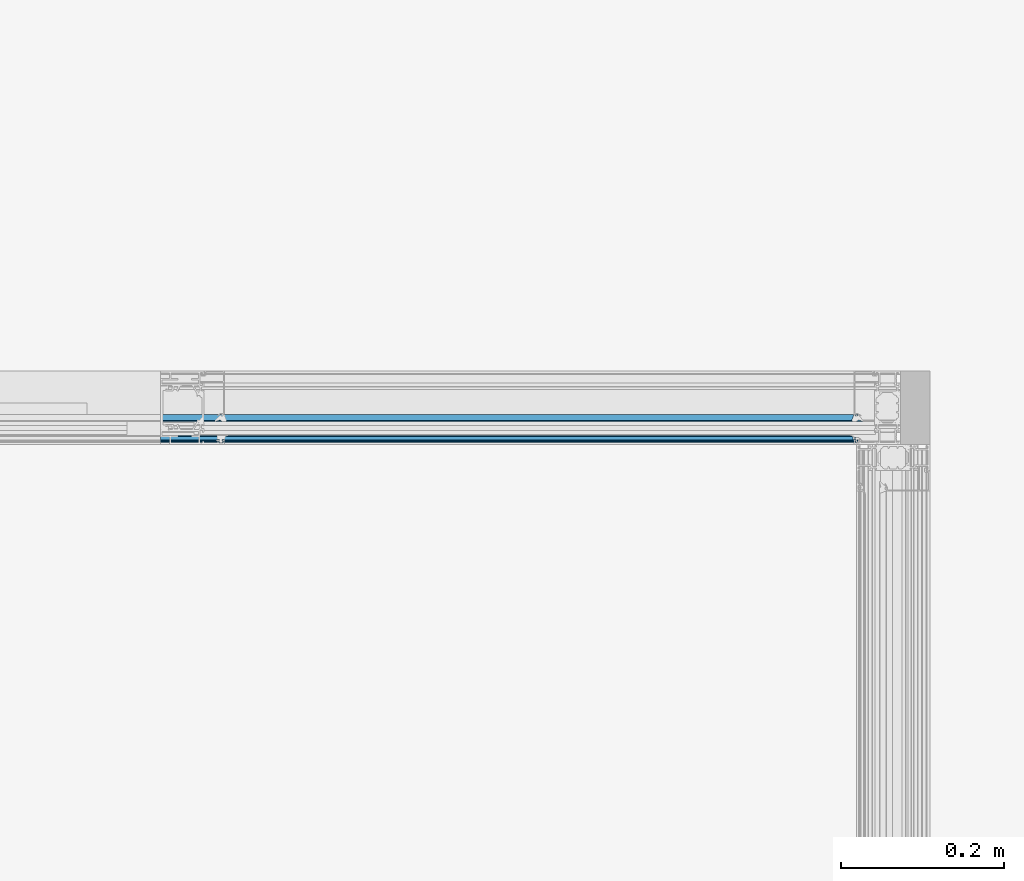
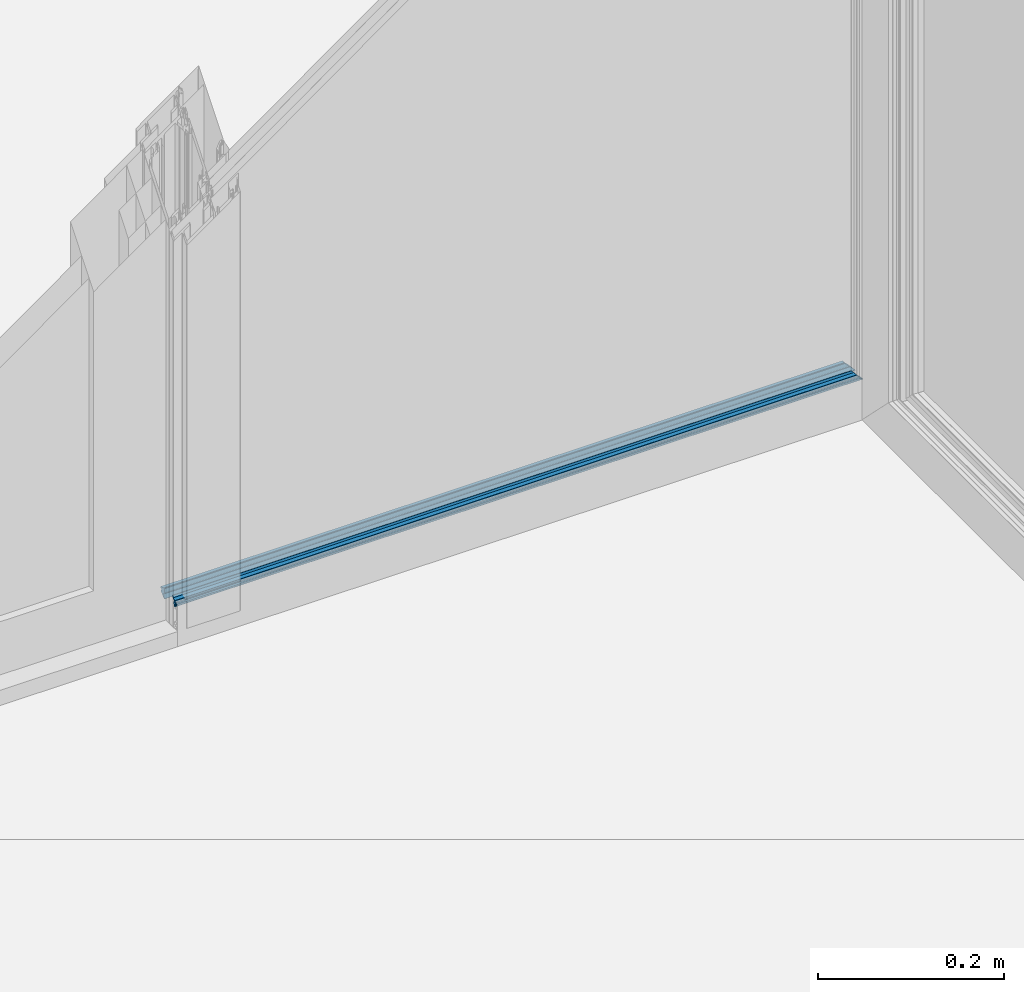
# One storey, part 36 of 69: 1 building element part, 2 elements without a shape of their own.
"""IFC2X3 building model written with IfcOpenShell, lengths in millimetres."""

from ifc_helpers import new_model, entity, si_unit, converted_unit, derived_unit, money_unit, direction, frame, origin_with_axes, place, context, subcontext, project, spatial, faceted_brep, material, type_object, element, aggregate, save


model = new_model("IFC2X3")

# Units and contexts
model_context = context("Model", 3, precision=0.01, world=origin_with_axes(), true_north=direction((0.0, 1.0)))
body_context = subcontext(model_context, "Body", "Model", "MODEL_VIEW")
ifc_project = project(units=[si_unit("LENGTHUNIT", "METRE", prefix="MILLI"), si_unit("AREAUNIT", "SQUARE_METRE"), si_unit("VOLUMEUNIT", "CUBIC_METRE"), converted_unit("PLANEANGLEUNIT", "DEGREE", entity("IfcPlaneAngleMeasure", 0.0174532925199), si_unit("PLANEANGLEUNIT", "RADIAN"), dimensions=[0, 0, 0, 0, 0, 0, 0]), si_unit("SOLIDANGLEUNIT", "STERADIAN"), money_unit("EUR"), converted_unit("TIMEUNIT", "Year", entity("IfcTimeMeasure", 31556926.0), si_unit("TIMEUNIT", "SECOND"), dimensions=[0, 0, 1, 0, 0, 0, 0]), si_unit("MASSUNIT", "GRAM", prefix="KILO"), si_unit("THERMODYNAMICTEMPERATUREUNIT", "DEGREE_CELSIUS"), si_unit("LUMINOUSINTENSITYUNIT", "LUMEN"), si_unit("ENERGYUNIT", "JOULE", prefix="MEGA"), derived_unit("THERMALCONDUCTANCEUNIT", [(si_unit("POWERUNIT", "WATT"), 1), (si_unit("LENGTHUNIT", "METRE"), -1), (si_unit("THERMODYNAMICTEMPERATUREUNIT", "KELVIN"), -1)]), derived_unit("SPECIFICHEATCAPACITYUNIT", [(si_unit("ENERGYUNIT", "JOULE"), 1), (si_unit("MASSUNIT", "GRAM", prefix="KILO"), -1), (si_unit("THERMODYNAMICTEMPERATUREUNIT", "KELVIN"), -1)]), derived_unit("MASSDENSITYUNIT", [(si_unit("MASSUNIT", "GRAM", prefix="KILO"), 1), (si_unit("VOLUMEUNIT", "CUBIC_METRE"), -1)])], contexts=[model_context])

# Site, building, storey
site_placement = place(None, origin_with_axes())
site = spatial("IfcSite", under=ifc_project, at=site_placement, Name="Puškini 31, Narva", CompositionType="ELEMENT")
building_placement = place(site_placement, origin_with_axes())
building = spatial("IfcBuilding", under=site, at=building_placement, Name="Narva Riigigümnaasium", CompositionType="ELEMENT")
storey_placement = place(building_placement, origin_with_axes())
storey = spatial("IfcBuildingStorey", under=building, at=storey_placement, Name="1.korrus 0.00", CompositionType="ELEMENT", Elevation=0.0)

# Curtain wall, member, building element part
curtain_wall_type = type_object("IfcCurtainWallType", Name="Curtain Wall Type", PredefinedType="NOTDEFINED")
curtain_wall_placement = place(storey_placement, frame((18229.9603698, 152620.000001, -0.397158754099), z_axis=(0.0, 0.0, 1.0), x_axis=(1.0, 0.0, 0.0)))
curtain_wall = element("IfcCurtainWall", 1, at=curtain_wall_placement, inside=storey, type_object=curtain_wall_type, Name="G-KLF-01-1")
member_type = type_object("IfcMemberType", Name="61 x 45", PredefinedType="MULLION")
member_placement = place(curtain_wall_placement, frame((4064.40686752, 0.0, 0.0), z_axis=(-1.0, 0.0, 0.0), x_axis=(0.0, 0.0, 1.0)))
member = element("IfcMember", 2, at=member_placement, type_object=member_type, Name="G-SKLF-01-raam", ObjectType="MULLION")
aggregate(curtain_wall, [member])
ifc_material = material(Name="Membraan - Veekindel")
building_element_part_placement = place(member_placement, origin_with_axes())
building_element_part = element("IfcBuildingElementPart", 3, at=building_element_part_placement, material=ifc_material, Name="Membraan - Veekindel", context=body_context, shape_type="Brep", body=[
    faceted_brep([(59.5800222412, -34.73794757, 59.5800222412), (61.0413385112, -34.3890442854, 61.0413385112), (61.0413385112, -34.3890442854, 905.68356342), (59.5800222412, -34.73794757, 905.68356342), (58.4755028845, -35.3628499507, 58.4755028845), (57.9693613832, -36.5265882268, 57.9693613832), (57.7000324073, -39.5999584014, 57.7000324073), (57.6464370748, -39.7999717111, 57.6464370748), (57.5000161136, -39.9463912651, 57.5000161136), (57.3000022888, -39.9999846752, 57.3000022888), (57.3000022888, -39.1999494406, 57.3000022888), (55.3000210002, -39.1999606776, 55.3000210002), (55.2330337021, -38.9499606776, 55.2330337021), (55.0500210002, -38.7669479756, 55.0500210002), (54.8000210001, -38.6999606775, 54.8000210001), (54.5500210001, -38.7669479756, 54.5500210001), (54.3670082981, -38.9499606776, 54.3670082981), (54.300021, -39.1999606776, 54.300021), (54.300021, -40.4999366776, 54.300021), (54.3402133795, -40.6499366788, 54.3402133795), (54.4500210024, -40.7597443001, 54.4500210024), (54.6000210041, -40.7999366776, 54.6000210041), (54.7000173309, -40.7999366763, 54.7000173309), (54.866675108, -40.850483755, 54.866675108), (54.9771753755, -40.9850924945, 54.9771753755), (54.9942836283, -41.1584047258, 54.9942836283), (54.9122350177, -41.3120206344, 54.9122350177), (53.8716106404, -42.3533776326, 53.8716106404), (53.7093558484, -42.4618547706, 53.7093558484), (53.517932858, -42.4999486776, 53.517932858), (51.8818844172, -42.4999486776, 51.8818844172), (51.6904310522, -42.4618421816, 51.6904310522), (51.5281601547, -42.3533311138, 51.5281601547), (50.4878083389, -41.3119729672, 50.4878083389), (50.4057850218, -41.1583618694, 50.4057850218), (50.4229059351, -40.9850671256, 50.4229059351), (50.5334025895, -40.8504763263, 50.5334025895), (50.7000457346, -40.7999366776, 50.7000457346), (50.80004, -40.7999366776, 50.80004), (50.95004, -40.7597442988, 50.95004), (51.0598476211, -40.6499366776, 51.0598476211), (51.10004, -40.4999366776, 51.10004), (51.10004, -39.1999550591, 51.10004), (51.0330541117, -38.9499546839, 51.0330541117), (50.8500424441, -38.7669409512, 50.8500424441), (50.6000428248, -38.699952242, 50.6000428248), (50.3500424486, -38.7669381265, 50.3500424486), (50.1670287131, -38.9499497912, 50.1670287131), (50.10004, -39.1999494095, 50.10004), (48.7206527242, -39.1999494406, 48.7206527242), (48.7206527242, -38.0023809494, 48.7206527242), (48.7876400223, -37.7523809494, 48.7876400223), (48.9706527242, -37.5693682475, 48.9706527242), (49.2206527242, -37.5023809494, 49.2206527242), (50.3319753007, -37.5023809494, 50.3319753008), (50.5819753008, -37.4353936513, 50.5819753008), (50.7649880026, -37.2523809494, 50.7649880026), (51.1691331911, -36.5523809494, 51.1691331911), (51.352145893, -36.3693682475, 51.352145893), (51.602145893, -36.3023809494, 51.602145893), (53.8391557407, -36.3023809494, 53.8391557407), (54.0891557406, -36.3693682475, 54.0891557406), (54.2721684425, -36.5523809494, 54.2721684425), (54.676313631, -37.2523809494, 54.676313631), (54.8593263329, -37.4353936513, 54.8593263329), (55.1093263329, -37.5023809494, 55.1093263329), (55.7607444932, -37.5023809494, 55.7607444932), (55.9795989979, -37.4519392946, 55.9795989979), (56.1542959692, -37.3107917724, 56.1542959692), (56.2495873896, -37.1074172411, 56.2495873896), (56.9567944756, -35.6067920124, 56.9567944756), (58.2346494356, -34.5489145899, 58.2346494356), (59.8409257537, -34.1343131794, 59.8409257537), (60.7381535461, -33.9217644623, 60.7381535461), (61.0108941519, -33.784859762, 61.0108941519), (61.1423164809, -33.9681748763, 61.1423164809), (61.1536677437, -34.1934467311, 61.1536677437), (53.5000340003, -40.7999553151, 53.5000340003), (53.433048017, -39.44993177, 53.433048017), (53.2500389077, -39.2669226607, 53.2500389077), (53.0000438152, -39.1999366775, 53.0000438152), (52.4000171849, -39.1999366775, 52.4000171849), (52.1500220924, -39.2669226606, 52.1500220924), (51.9670129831, -39.4499317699, 51.9670129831), (51.9000269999, -39.6999268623, 51.9000269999), (51.9000269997, -40.799955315, 51.9000269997), (51.9670118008, -41.0499459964, 51.9670118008), (52.150017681, -41.2329518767, 52.150017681), (52.4000083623, -41.299936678, 52.4000083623), (53.0000526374, -41.299936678, 53.0000526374), (53.2500433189, -41.2329518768, 53.2500433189), (53.4330491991, -41.0499459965, 53.4330491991), (61.1536677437, -34.1934467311, 905.68356342), (61.1423164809, -33.9681748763, 905.68356342), (61.0108941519, -33.784859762, 905.68356342), (60.7381535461, -33.9217644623, 905.68356342), (59.8409257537, -34.1343131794, 905.68356342), (58.2346494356, -34.5489145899, 905.68356342), (56.9567944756, -35.6067920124, 905.68356342), (56.2495873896, -37.1074172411, 905.68356342), (56.1542959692, -37.3107917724, 905.68356342), (55.9795989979, -37.4519392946, 905.68356342), (55.7607444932, -37.5023809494, 905.68356342), (55.1093263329, -37.5023809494, 905.68356342), (54.8593263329, -37.4353936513, 905.68356342), (54.676313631, -37.2523809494, 905.68356342), (54.2721684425, -36.5523809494, 905.68356342), (54.0891557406, -36.3693682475, 905.68356342), (53.8391557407, -36.3023809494, 905.68356342), (51.602145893, -36.3023809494, 905.68356342), (51.352145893, -36.3693682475, 905.68356342), (51.1691331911, -36.5523809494, 905.68356342), (50.7649880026, -37.2523809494, 905.68356342), (50.5819753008, -37.4353936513, 905.68356342), (50.3319753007, -37.5023809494, 905.68356342), (49.2206527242, -37.5023809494, 905.68356342), (48.9706527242, -37.5693682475, 905.68356342), (48.7876400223, -37.7523809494, 905.68356342), (48.7206527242, -38.0023809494, 905.68356342), (48.7206527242, -39.1999494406, 905.68356342), (50.10004, -39.1999494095, 905.68356342), (50.1670287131, -38.9499497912, 905.68356342), (50.3500424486, -38.7669381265, 905.68356342), (50.6000428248, -38.699952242, 905.68356342), (50.8500424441, -38.7669409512, 905.68356342), (51.0330541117, -38.9499546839, 905.68356342), (51.10004, -39.1999550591, 905.68356342), (51.10004, -40.4999366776, 905.68356342), (51.0598476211, -40.6499366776, 905.68356342), (50.95004, -40.7597442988, 905.68356342), (50.80004, -40.7999366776, 905.68356342), (50.7000457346, -40.7999366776, 905.68356342), (50.5334025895, -40.8504763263, 905.68356342), (50.4229059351, -40.9850671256, 905.68356342), (50.4057850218, -41.1583618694, 905.68356342), (50.4878083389, -41.3119729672, 905.68356342), (51.5281601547, -42.3533311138, 905.68356342), (51.6904310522, -42.4618421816, 905.68356342), (51.8818844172, -42.4999486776, 905.68356342), (53.517932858, -42.4999486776, 905.68356342), (53.7093558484, -42.4618547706, 905.68356342), (53.8716106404, -42.3533776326, 905.68356342), (54.9122350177, -41.3120206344, 905.68356342), (54.9942836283, -41.1584047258, 905.68356342), (54.9771753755, -40.9850924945, 905.68356342), (54.866675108, -40.850483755, 905.68356342), (54.7000173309, -40.7999366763, 905.68356342), (54.6000210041, -40.7999366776, 905.68356342), (54.4500210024, -40.7597443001, 905.68356342), (54.3402133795, -40.6499366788, 905.68356342), (54.300021, -40.4999366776, 905.68356342), (54.300021, -39.1999606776, 905.68356342), (54.3670082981, -38.9499606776, 905.68356342), (54.5500210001, -38.7669479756, 905.68356342), (54.8000210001, -38.6999606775, 905.68356342), (55.0500210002, -38.7669479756, 905.68356342), (55.2330337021, -38.9499606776, 905.68356342), (55.3000210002, -39.1999606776, 905.68356342), (57.3000022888, -39.1999494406, 905.68356342), (57.3000022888, -39.9999846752, 905.68356342), (57.5000161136, -39.9463912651, 905.68356342), (57.6464370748, -39.7999717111, 905.68356342), (57.7000324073, -39.5999584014, 905.68356342), (57.9693613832, -36.5265882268, 905.68356342), (58.4755028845, -35.3628499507, 905.68356342), (53.5000340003, -40.7999553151, 905.68356342), (53.4330491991, -41.0499459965, 905.68356342), (53.2500433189, -41.2329518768, 905.68356342), (53.0000526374, -41.299936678, 905.68356342), (52.4000083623, -41.299936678, 905.68356342), (52.150017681, -41.2329518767, 905.68356342), (51.9670118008, -41.0499459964, 905.68356342), (51.9000269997, -40.799955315, 905.68356342), (51.9000269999, -39.6999268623, 905.68356342), (51.9670129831, -39.4499317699, 905.68356342), (52.1500220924, -39.2669226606, 905.68356342), (52.4000171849, -39.1999366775, 905.68356342), (53.0000438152, -39.1999366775, 905.68356342), (53.2500389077, -39.2669226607, 905.68356342), (53.433048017, -39.44993177, 905.68356342)], [[[0, 1, 2, 3]], [[1, 0, 4, 5, 6, 7, 8, 9, 10, 11, 12, 13, 14, 15, 16, 17, 18, 19, 20, 21, 22, 23, 24, 25, 26, 27, 28, 29, 30, 31, 32, 33, 34, 35, 36, 37, 38, 39, 40, 41, 42, 43, 44, 45, 46, 47, 48, 49, 50, 51, 52, 53, 54, 55, 56, 57, 58, 59, 60, 61, 62, 63, 64, 65, 66, 67, 68, 69, 70, 71, 72, 73, 74, 75, 76], [77, 78, 79, 80, 81, 82, 83, 84, 85, 86, 87, 88, 89, 90, 91]], [[1, 76, 92, 2]], [[2, 92, 93, 94, 95, 96, 97, 98, 99, 100, 101, 102, 103, 104, 105, 106, 107, 108, 109, 110, 111, 112, 113, 114, 115, 116, 117, 118, 119, 120, 121, 122, 123, 124, 125, 126, 127, 128, 129, 130, 131, 132, 133, 134, 135, 136, 137, 138, 139, 140, 141, 142, 143, 144, 145, 146, 147, 148, 149, 150, 151, 152, 153, 154, 155, 156, 157, 158, 159, 160, 161, 162, 163, 164, 3], [165, 166, 167, 168, 169, 170, 171, 172, 173, 174, 175, 176, 177, 178, 179]], [[4, 0, 3, 164]], [[5, 4, 164, 163]], [[6, 5, 163, 162]], [[7, 6, 162, 161]], [[8, 7, 161, 160]], [[9, 8, 160, 159]], [[10, 9, 159, 158]], [[11, 10, 158, 157]], [[12, 11, 157, 156]], [[13, 12, 156, 155]], [[14, 13, 155, 154]], [[15, 14, 154, 153]], [[16, 15, 153, 152]], [[17, 16, 152, 151]], [[18, 17, 151, 150]], [[19, 18, 150, 149]], [[20, 19, 149, 148]], [[21, 20, 148, 147]], [[22, 21, 147, 146]], [[23, 22, 146, 145]], [[24, 23, 145, 144]], [[25, 24, 144, 143]], [[26, 25, 143, 142]], [[27, 26, 142, 141]], [[28, 27, 141, 140]], [[29, 28, 140, 139]], [[30, 29, 139, 138]], [[31, 30, 138, 137]], [[32, 31, 137, 136]], [[33, 32, 136, 135]], [[34, 33, 135, 134]], [[35, 34, 134, 133]], [[36, 35, 133, 132]], [[37, 36, 132, 131]], [[38, 37, 131, 130]], [[39, 38, 130, 129]], [[40, 39, 129, 128]], [[41, 40, 128, 127]], [[42, 41, 127, 126]], [[43, 42, 126, 125]], [[44, 43, 125, 124]], [[45, 44, 124, 123]], [[46, 45, 123, 122]], [[47, 46, 122, 121]], [[48, 47, 121, 120]], [[49, 48, 120, 119]], [[50, 49, 119, 118]], [[51, 50, 118, 117]], [[52, 51, 117, 116]], [[53, 52, 116, 115]], [[54, 53, 115, 114]], [[55, 54, 114, 113]], [[56, 55, 113, 112]], [[57, 56, 112, 111]], [[58, 57, 111, 110]], [[59, 58, 110, 109]], [[60, 59, 109, 108]], [[61, 60, 108, 107]], [[62, 61, 107, 106]], [[63, 62, 106, 105]], [[64, 63, 105, 104]], [[65, 64, 104, 103]], [[66, 65, 103, 102]], [[67, 66, 102, 101]], [[68, 67, 101, 100]], [[69, 68, 100, 99]], [[70, 69, 99, 98]], [[71, 70, 98, 97]], [[72, 71, 97, 96]], [[73, 72, 96, 95]], [[74, 73, 95, 94]], [[75, 74, 94, 93]], [[76, 75, 93, 92]], [[78, 77, 165, 179]], [[79, 78, 179, 178]], [[80, 79, 178, 177]], [[81, 80, 177, 176]], [[82, 81, 176, 175]], [[83, 82, 175, 174]], [[84, 83, 174, 173]], [[85, 84, 173, 172]], [[86, 85, 172, 171]], [[87, 86, 171, 170]], [[88, 87, 170, 169]], [[89, 88, 169, 168]], [[90, 89, 168, 167]], [[91, 90, 167, 166]], [[77, 91, 166, 165]]]),
    faceted_brep([(55.9926715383, -16.8063498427, 55.9926715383), (59.0307115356, -16.554149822, 59.0307115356), (59.0307115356, -16.554149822, 905.68356342), (55.9926715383, -16.8063498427, 905.68356342), (53.7899070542, -16.6230039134, 53.7899070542), (53.1225200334, -16.3483062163, 53.1225200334), (51.5205025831, -15.0099586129, 51.5205025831), (51.3011765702, -14.8998814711, 51.3011765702), (51.0558924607, -14.9074036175, 51.0558924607), (50.8437237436, -15.0307134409, 50.8437237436), (50.5536994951, -15.2121179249, 50.5536994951), (46.298307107, -16.7340705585, 46.298307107), (45.950966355, -16.7718696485, 45.950966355), (45.6241929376, -16.6482027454, 45.6241929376), (45.3889077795, -16.3899097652, 45.3889077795), (45.3195226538, -16.2152275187, 45.3195226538), (45.3418968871, -15.7688623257, 45.3418968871), (45.6142070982, -15.4144760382, 45.6142070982), (51.8169217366, -8.74599822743, 51.8169217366), (51.938943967, -8.6326446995, 51.938943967), (52.1026310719, -8.60190419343, 52.1026310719), (52.2574645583, -8.66326410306, 52.2574645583), (52.3556584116, -8.79778701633, 52.3556584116), (52.7761212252, -9.95299910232, 52.7761212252), (52.8859560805, -10.0961386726, 52.8859560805), (53.0580290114, -10.1503930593, 53.0580290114), (55.1123574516, -10.1503930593, 55.1123574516), (55.2731258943, -10.1036784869, 55.2731258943), (55.3838261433, -9.97808311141, 55.3838261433), (55.4099827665, -9.81272116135, 55.4099827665), (55.2940485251, -8.85237785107, 55.2940485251), (55.3307332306, -8.7275382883, 55.3307332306), (55.4168250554, -8.6299735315, 55.4168250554), (55.5361285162, -8.57803733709, 55.5361285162), (56.9361285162, -8.30590490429, 56.9361285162), (57.0661058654, -8.3093438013, 57.0661058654), (57.1824204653, -8.36745448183, 57.1824204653), (57.2632233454, -8.46932121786, 57.2632233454), (57.5418652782, -10.0035930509, 57.5418652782), (59.3405112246, -15.0012955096, 59.3405112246), (59.5001582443, -15.5494067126, 59.5001582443), (59.3884652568, -16.1092618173, 59.3884652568), (59.3884652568, -16.1092618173, 905.68356342), (59.5001582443, -15.5494067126, 905.68356342), (59.3405112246, -15.0012955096, 905.68356342), (57.5418652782, -10.0035930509, 905.68356342), (57.2632233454, -8.46932121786, 905.68356342), (57.1824204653, -8.36745448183, 905.68356342), (57.0661058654, -8.3093438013, 905.68356342), (56.9361285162, -8.30590490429, 905.68356342), (55.5361285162, -8.57803733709, 905.68356342), (55.4168250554, -8.6299735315, 905.68356342), (55.3307332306, -8.7275382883, 905.68356342), (55.2940485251, -8.85237785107, 905.68356342), (55.4099827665, -9.81272116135, 905.68356342), (55.3838261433, -9.97808311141, 905.68356342), (55.2731258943, -10.1036784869, 905.68356342), (55.1123574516, -10.1503930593, 905.68356342), (53.0580290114, -10.1503930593, 905.68356342), (52.8859560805, -10.0961386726, 905.68356342), (52.7761212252, -9.95299910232, 905.68356342), (52.3556584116, -8.79778701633, 905.68356342), (52.2574645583, -8.66326410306, 905.68356342), (52.1026310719, -8.60190419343, 905.68356342), (51.938943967, -8.6326446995, 905.68356342), (51.8169217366, -8.74599822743, 905.68356342), (45.6142070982, -15.4144760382, 905.68356342), (45.3418968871, -15.7688623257, 905.68356342), (45.3195226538, -16.2152275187, 905.68356342), (45.3889077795, -16.3899097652, 905.68356342), (45.6241929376, -16.6482027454, 905.68356342), (45.950966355, -16.7718696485, 905.68356342), (46.298307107, -16.7340705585, 905.68356342), (50.5536994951, -15.2121179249, 905.68356342), (50.8437237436, -15.0307134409, 905.68356342), (51.0558924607, -14.9074036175, 905.68356342), (51.3011765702, -14.8998814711, 905.68356342), (51.5205025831, -15.0099586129, 905.68356342), (53.1225200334, -16.3483062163, 905.68356342), (53.7899070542, -16.6230039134, 905.68356342)], [[[0, 1, 2, 3]], [[1, 0, 4, 5, 6, 7, 8, 9, 10, 11, 12, 13, 14, 15, 16, 17, 18, 19, 20, 21, 22, 23, 24, 25, 26, 27, 28, 29, 30, 31, 32, 33, 34, 35, 36, 37, 38, 39, 40, 41]], [[1, 41, 42, 2]], [[2, 42, 43, 44, 45, 46, 47, 48, 49, 50, 51, 52, 53, 54, 55, 56, 57, 58, 59, 60, 61, 62, 63, 64, 65, 66, 67, 68, 69, 70, 71, 72, 73, 74, 75, 76, 77, 78, 79, 3]], [[4, 0, 3, 79]], [[5, 4, 79, 78]], [[6, 5, 78, 77]], [[7, 6, 77, 76]], [[8, 7, 76, 75]], [[9, 8, 75, 74]], [[10, 9, 74, 73]], [[11, 10, 73, 72]], [[12, 11, 72, 71]], [[13, 12, 71, 70]], [[14, 13, 70, 69]], [[15, 14, 69, 68]], [[16, 15, 68, 67]], [[17, 16, 67, 66]], [[18, 17, 66, 65]], [[19, 18, 65, 64]], [[20, 19, 64, 63]], [[21, 20, 63, 62]], [[22, 21, 62, 61]], [[23, 22, 61, 60]], [[24, 23, 60, 59]], [[25, 24, 59, 58]], [[26, 25, 58, 57]], [[27, 26, 57, 56]], [[28, 27, 56, 55]], [[29, 28, 55, 54]], [[30, 29, 54, 53]], [[31, 30, 53, 52]], [[32, 31, 52, 51]], [[33, 32, 51, 50]], [[34, 33, 50, 49]], [[35, 34, 49, 48]], [[36, 35, 48, 47]], [[37, 36, 47, 46]], [[38, 37, 46, 45]], [[39, 38, 45, 44]], [[40, 39, 44, 43]], [[41, 40, 43, 42]]]),
])
aggregate(member, [building_element_part])

save(model, "model.ifc")
